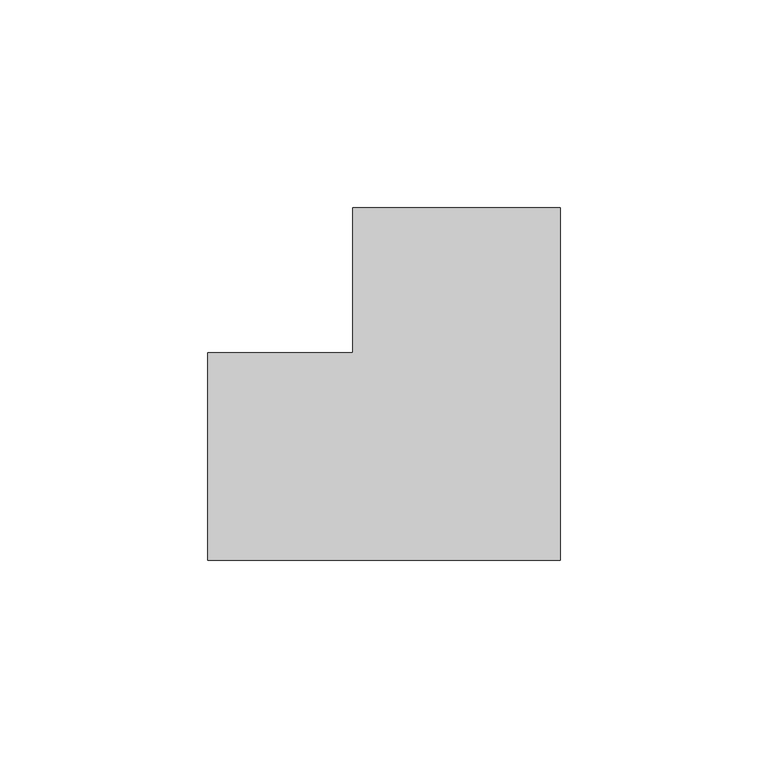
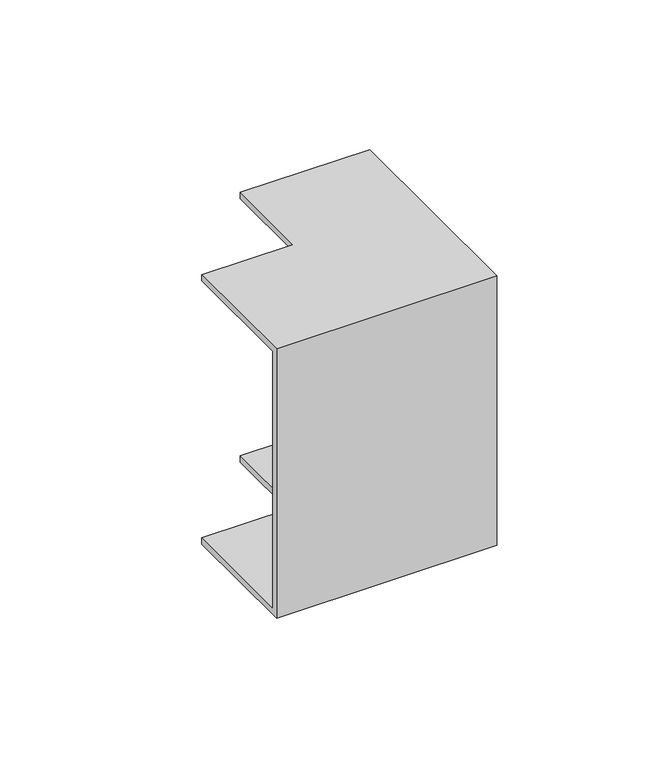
"""IFC4 building model written with IfcOpenShell, lengths in millimetres: cable carrier fitting geometry, КНС_УголВнутренний_ILF_DKC : Белый."""

from ifc_helpers import new_model, si_unit, origin, place, context, project, spatial, faceted_brep, source, transform, mapped, element, save


def cable_carrier_fitting_01ff78f4(model_context):
    return source(origin(), model_context, "Body", "Brep", [
        faceted_brep([(-60.0, -25.0, 55.0), (-60.0, 25.0, 55.0), (-60.0, 25.0, 52.5), (-60.0, -22.5, 52.5), (-60.0, -22.5, -52.5), (-60.0, 25.0, -52.5), (-60.0, 25.0, -55.0), (-60.0, -25.0, -55.0), (25.0, 60.0, 55.0), (25.0, 60.0, -55.0), (-25.0, 60.0, -55.0), (-25.0, 60.0, -52.5), (22.5, 60.0, -52.5), (22.5, 60.0, 52.5), (-25.0, 60.0, 52.5), (-25.0, 60.0, 55.0), (25.0, -25.0, 55.0), (-25.0, 25.0, 55.0), (-25.0, 25.0, 52.5), (22.5, -22.5, 52.5), (22.5, -22.5, -52.5), (-25.0, 25.0, -52.5), (-25.0, 25.0, -55.0), (25.0, -25.0, -55.0)], [[[0, 1, 2, 3, 4, 5, 6, 7]], [[8, 9, 10, 11, 12, 13, 14, 15]], [[1, 0, 16, 8, 15, 17]], [[2, 1, 17, 18]], [[3, 2, 18, 14, 13, 19]], [[4, 3, 19, 20]], [[5, 4, 20, 12, 11, 21]], [[6, 5, 21, 22]], [[7, 6, 22, 10, 9, 23]], [[0, 7, 23, 16]], [[18, 17, 15, 14]], [[20, 19, 13, 12]], [[22, 21, 11, 10]], [[16, 23, 9, 8]]]),
    ])


if __name__ == "__main__":
    model = new_model("IFC4")
    model_context = context("Model", 3, world=origin())
    ifc_project = project(units=[si_unit("LENGTHUNIT", "METRE", prefix="MILLI")], contexts=[model_context])
    site = spatial("IfcSite", under=ifc_project)
    building = spatial("IfcBuilding", under=site)
    placement = place(None, origin())
    cable_carrier_fitting_shape = cable_carrier_fitting_01ff78f4(model_context)
    element("IfcCableCarrierFitting", 1, ObjectType="КНС_УголВнутренний_ILF_DKC : Белый", at=placement, inside=building, context=model_context, shape_type="MappedRepresentation", body=[
        mapped(cable_carrier_fitting_shape, transform((0.0, 0.0, 0.0), x_axis=(1.0, 0.0, 0.0), y_axis=(0.0, 1.0, 0.0), z_axis=(0.0, 0.0, 1.0))),
    ])
    save(model, "model.ifc")
